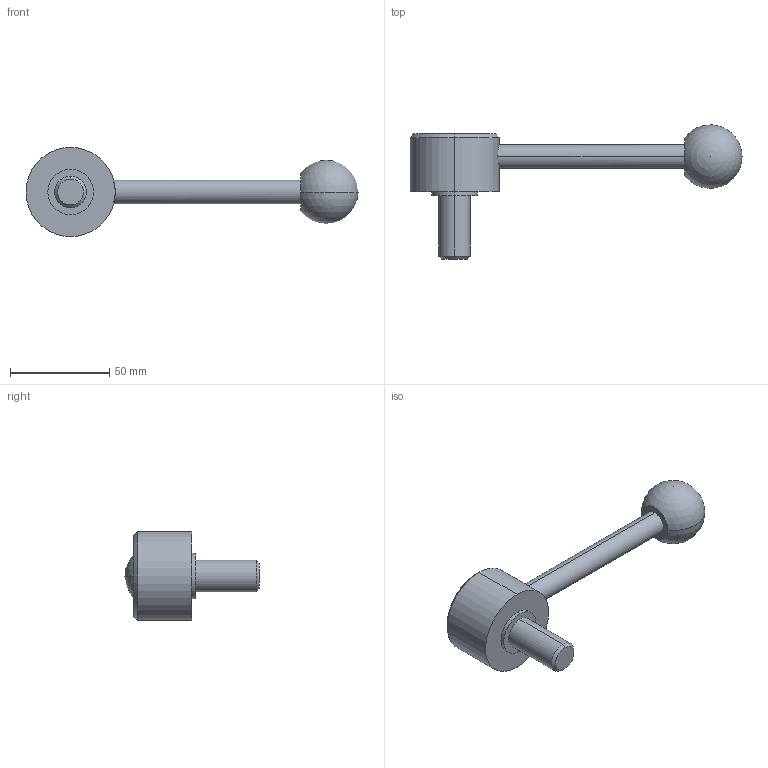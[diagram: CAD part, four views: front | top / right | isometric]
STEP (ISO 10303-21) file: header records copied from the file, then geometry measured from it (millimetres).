
FILE_DESCRIPTION (( 'STEP AP214' ), '1' );
FILE_NAME ('125.5-45-M16-32-D.step', '2020-02-18T11:42:13', ( '' ), ( '' ), 'SwSTEP 2.0', 'SolidWorks 2019', '' );
FILE_SCHEMA (( 'AUTOMOTIVE_DESIGN' ));
Length unit declared in the file: millimetre
Products named in the file (1): 125.5-45-M16-32-D
Bounding box: 167.5 x 67.67 x 45 mm (x, y, z)
Volume: 80859.6 mm3; surface area: 15360.8 mm2
Topology: 1 solids, 1 shells, 22 faces, 47 edges, 30 vertices
Faces by surface type: cylinder 10, plane 6, cone 4, sphere 2
Entity records: 748 total; most frequent: CARTESIAN_POINT 176, DIRECTION 112, ORIENTED_EDGE 84, AXIS2_PLACEMENT_3D 49, EDGE_CURVE 42, EDGE_LOOP 27, VERTEX_POINT 27, CIRCLE 26
